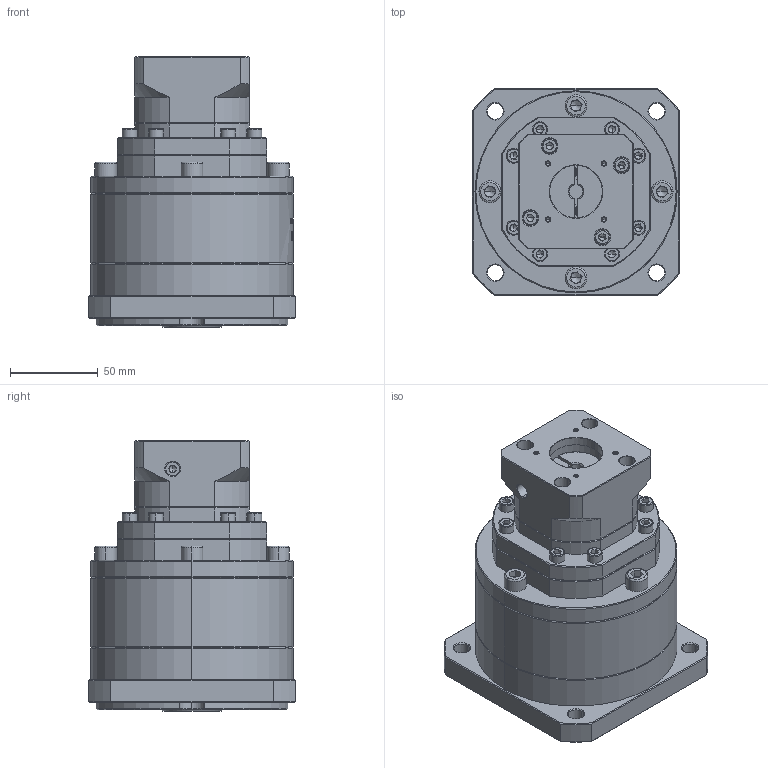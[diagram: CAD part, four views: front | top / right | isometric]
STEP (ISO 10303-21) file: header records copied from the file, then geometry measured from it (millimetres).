
FILE_DESCRIPTION (( 'STEP AP214' ), '1' );
FILE_NAME ('ZF120A-K25-L3-8-30-45-M3.step', '2023-03-07T15:57:27', ( '' ), ( 'Microsoft' ), 'SwSTEP 2.0', 'SolidWorks 2016', '' );
FILE_SCHEMA (( 'AUTOMOTIVE_DESIGN' ));
Length unit declared in the file: millimetre
Products named in the file (1): ZF120A-K25-L3-8-30-45-M3
Bounding box: 118 x 118 x 154 mm (x, y, z)
Volume: 1173563.3 mm3; surface area: 113761.5 mm2
Topology: 7 solids, 7 shells, 2025 faces, 5322 edges, 3400 vertices
Faces by surface type: plane 995, cylinder 386, bspline 328, cone 294, torus 22
Entity records: 101942 total; most frequent: CARTESIAN_POINT 33187, ORIENTED_EDGE 10540, DIRECTION 8408, EDGE_CURVE 5270, VERTEX_POINT 3400, LINE 2942, VECTOR 2942, AXIS2_PLACEMENT_3D 2733
